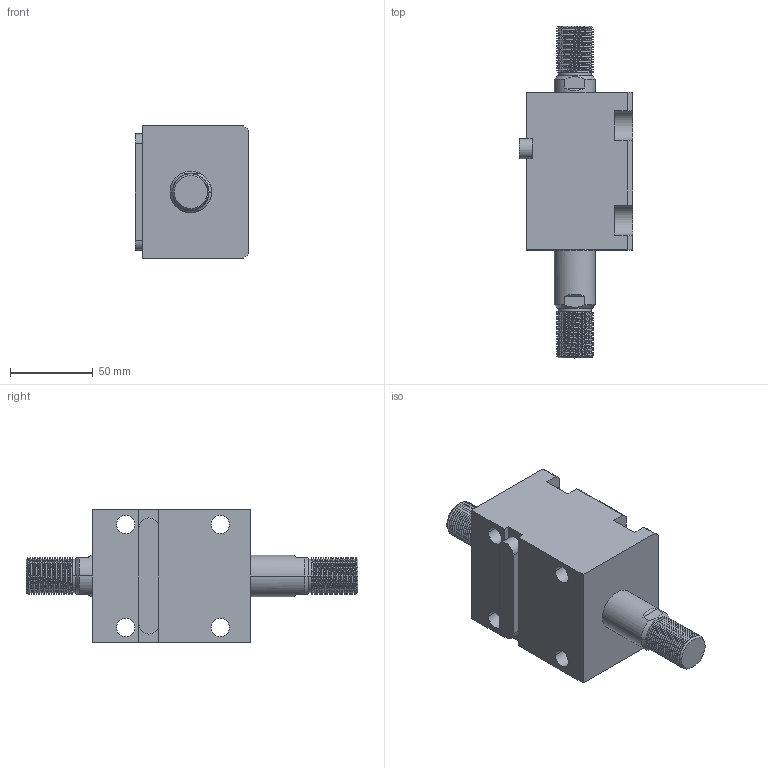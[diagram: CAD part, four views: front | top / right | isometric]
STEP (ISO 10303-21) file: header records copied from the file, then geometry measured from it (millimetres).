
FILE_DESCRIPTION (( 'STEP AP214' ), '1' );
FILE_NAME ('chtb-lw40x25w_asm.STEP', '2018-06-04T06:54:26', ( 'Windows' ), ( 'Microsoft' ), 'SwSTEP 2.0', 'SolidWorks 2015', '' );
FILE_SCHEMA (( 'AUTOMOTIVE_DESIGN' ));
Length unit declared in the file: millimetre
Products named in the file (5): CHTB-SW40X25NHSG; CHTB-SD40QG; CHTB-LW40X25NBT; CHTB-LA40PJ; chtb-lw40x25w_asm
Assembly tree (4 placements, depth 2):
  chtb-lw40x25w_asm
    CHTB-LA40PJ
    CHTB-LW40X25NBT
    CHTB-SD40QG
    CHTB-SW40X25NHSG
Bounding box: 68.5 x 200 x 80 mm (x, y, z)
Volume: 474378 mm3; surface area: 91357.1 mm2
Topology: 4 solids, 4 shells, 258 faces, 711 edges, 473 vertices
Faces by surface type: cylinder 152, plane 59, bspline 18, cone 17, torus 12
Entity records: 17539 total; most frequent: CARTESIAN_POINT 11292, ORIENTED_EDGE 1410, DIRECTION 1124, EDGE_CURVE 705, VERTEX_POINT 473, AXIS2_PLACEMENT_3D 433, EDGE_LOOP 292, VECTOR 258
